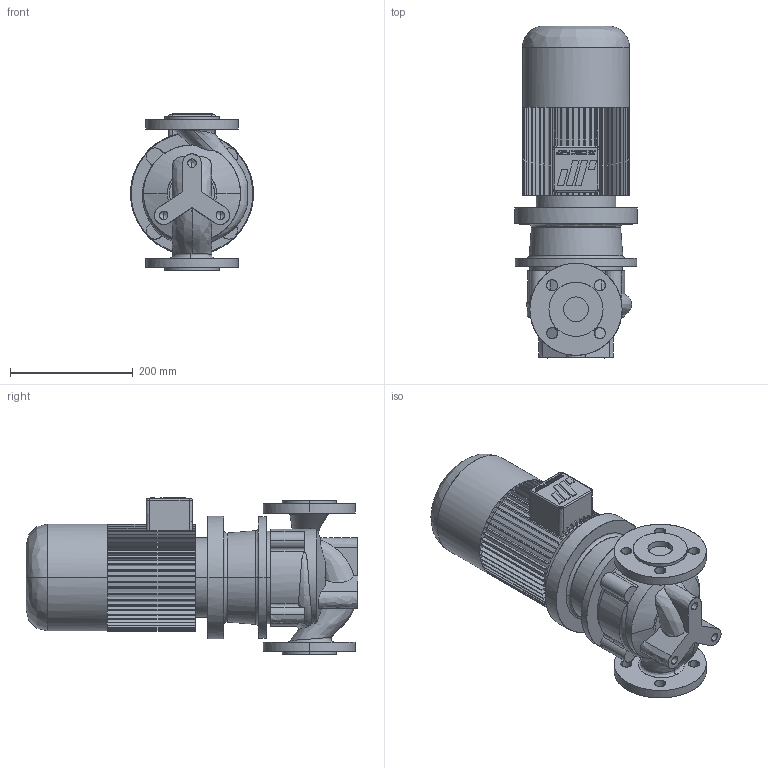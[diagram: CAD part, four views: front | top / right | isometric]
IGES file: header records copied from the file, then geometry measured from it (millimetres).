
Start section: CombiLine
Global section: file name: CLB_40-125_IEC90S_ND10.igs; native system:  By UGS Corp.; preprocessor: XPlus GENERIC/IGES 3.0; author: Stageplaats; organization: Johnson Pump Water B.V.; date: 20070716.101324; units: millimetre
Bounding box: 200 x 540 x 255 mm (x, y, z)
Surface area: 625803.2 mm2 (no closed solid volume)
Topology: 0 solids, 0 shells, 516 faces, 3141 edges, 3135 vertices
Faces by surface type: bspline 516
